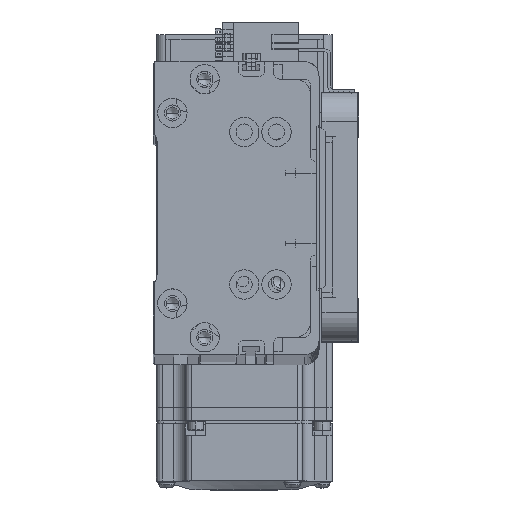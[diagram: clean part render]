
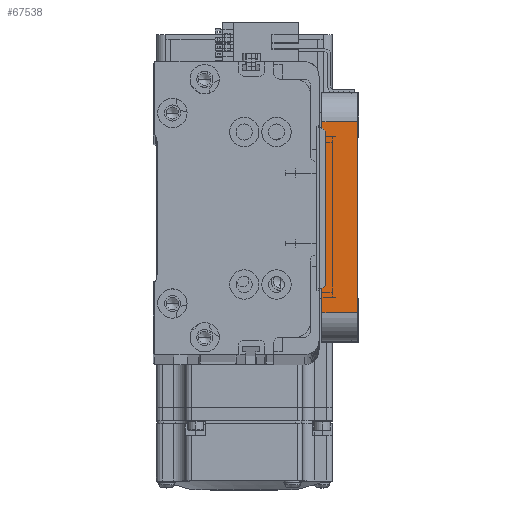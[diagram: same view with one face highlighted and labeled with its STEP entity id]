
A CAD part, top view. The second image highlights one B-rep face of the part: STEP entity #67538.
In plain terms, the highlighted planar face has unit normal (0, 0, 1) as drawn and (-1, 0, 0) by its records, which use the part's own axes.
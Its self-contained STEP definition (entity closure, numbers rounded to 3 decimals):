
#1139 = LINE ( 'NONE', #49974, #15078 ) ;
#1637 = VERTEX_POINT ( 'NONE', #51929 ) ;
#2685 = ORIENTED_EDGE ( 'NONE', *, *, #34530, .T. ) ;
#2935 = ORIENTED_EDGE ( 'NONE', *, *, #20447, .T. ) ;
#3165 = CARTESIAN_POINT ( 'NONE',  ( -55., -42.5, 0. ) ) ;
#4847 = AXIS2_PLACEMENT_3D ( 'NONE', #22351, #23145, #64750 ) ;
#8884 = LINE ( 'NONE', #3165, #68301 ) ;
#9669 = DIRECTION ( 'NONE',  ( 0., 0., -1. ) ) ;
#10751 = CARTESIAN_POINT ( 'NONE',  ( -55., -32.5, 0. ) ) ;
#11212 = CARTESIAN_POINT ( 'NONE',  ( -55., -32.5, 12. ) ) ;
#15078 = VECTOR ( 'NONE', #32028, 1000. ) ;
#17205 = PLANE ( 'NONE',  #4847 ) ;
#18602 = ORIENTED_EDGE ( 'NONE', *, *, #37392, .T. ) ;
#20447 = EDGE_CURVE ( 'NONE', #28160, #39536, #32880, .T. ) ;
#22351 = CARTESIAN_POINT ( 'NONE',  ( -55., -42.5, 12. ) ) ;
#23145 = DIRECTION ( 'NONE',  ( 1., 0., 0. ) ) ;
#26251 = DIRECTION ( 'NONE',  ( 0., 0., 1. ) ) ;
#28160 = VERTEX_POINT ( 'NONE', #10751 ) ;
#29344 = LINE ( 'NONE', #45176, #61003 ) ;
#32028 = DIRECTION ( 'NONE',  ( 0., -1., 0. ) ) ;
#32880 = LINE ( 'NONE', #73815, #62676 ) ;
#34530 = EDGE_CURVE ( 'NONE', #37294, #1637, #29344, .T. ) ;
#35598 = EDGE_CURVE ( 'NONE', #37294, #39536, #1139, .T. ) ;
#37294 = VERTEX_POINT ( 'NONE', #55493 ) ;
#37392 = EDGE_CURVE ( 'NONE', #1637, #28160, #8884, .T. ) ;
#39536 = VERTEX_POINT ( 'NONE', #11212 ) ;
#39551 = ORIENTED_EDGE ( 'NONE', *, *, #35598, .F. ) ;
#45176 = CARTESIAN_POINT ( 'NONE',  ( -55., 32.5, 12. ) ) ;
#49974 = CARTESIAN_POINT ( 'NONE',  ( -55., -42.5, 12. ) ) ;
#50712 = DIRECTION ( 'NONE',  ( 0., -1., 0. ) ) ;
#51929 = CARTESIAN_POINT ( 'NONE',  ( -55., 32.5, 0. ) ) ;
#55493 = CARTESIAN_POINT ( 'NONE',  ( -55., 32.5, 12. ) ) ;
#61003 = VECTOR ( 'NONE', #9669, 1000. ) ;
#62676 = VECTOR ( 'NONE', #26251, 1000. ) ;
#64750 = DIRECTION ( 'NONE',  ( 0., 0., -1. ) ) ;
#67538 = ADVANCED_FACE ( 'NONE', ( #70080 ), #17205, .F. ) ;
#68301 = VECTOR ( 'NONE', #50712, 1000. ) ;
#70080 = FACE_OUTER_BOUND ( 'NONE', #70731, .T. ) ;
#70731 = EDGE_LOOP ( 'NONE', ( #18602, #2935, #39551, #2685 ) ) ;
#73815 = CARTESIAN_POINT ( 'NONE',  ( -55., -32.5, 12. ) ) ;
